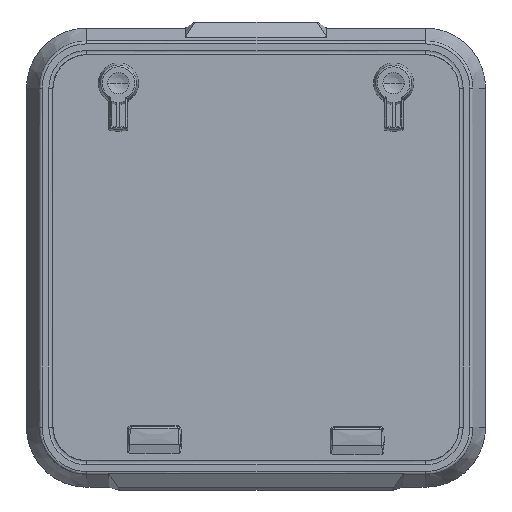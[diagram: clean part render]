
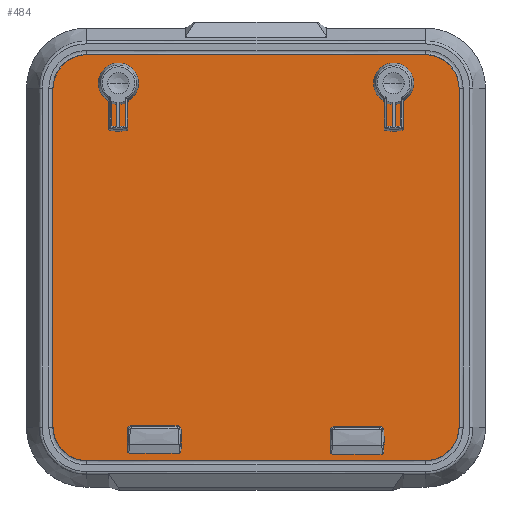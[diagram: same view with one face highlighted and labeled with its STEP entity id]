
A CAD part, front view. The second image highlights one B-rep face of the part: STEP entity #484.
In plain terms, the highlighted planar face has unit normal (0, -1, 0).
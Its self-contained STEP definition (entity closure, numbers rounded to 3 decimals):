
#1=CARTESIAN_POINT('',(81.9,0.,-35.7));
#2=DIRECTION('',(0.,-1.,0.));
#3=DIRECTION('',(1.,0.,0.));
#4=AXIS2_PLACEMENT_3D('',#1,#2,#3);
#6=CARTESIAN_POINT('',(81.9,0.,-35.7));
#7=DIRECTION('',(0.,-1.,0.));
#8=DIRECTION('',(-1.,0.,0.));
#9=AXIS2_PLACEMENT_3D('',#6,#7,#8);
#11=CARTESIAN_POINT('',(97.055,0.,-44.45));
#12=DIRECTION('',(0.,-1.,0.));
#13=DIRECTION('',(1.,0.,0.));
#14=AXIS2_PLACEMENT_3D('',#11,#12,#13);
#16=CARTESIAN_POINT('',(97.055,0.,-44.45));
#17=DIRECTION('',(0.,-1.,0.));
#18=DIRECTION('',(-1.,0.,0.));
#19=AXIS2_PLACEMENT_3D('',#16,#17,#18);
#21=CARTESIAN_POINT('',(426.1,0.,-35.7));
#22=DIRECTION('',(0.,-1.,0.));
#23=DIRECTION('',(1.,0.,0.));
#24=AXIS2_PLACEMENT_3D('',#21,#22,#23);
#26=CARTESIAN_POINT('',(426.1,0.,-35.7));
#27=DIRECTION('',(0.,-1.,0.));
#28=DIRECTION('',(-1.,0.,0.));
#29=AXIS2_PLACEMENT_3D('',#26,#27,#28);
#31=CARTESIAN_POINT('',(410.945,0.,-44.45));
#32=DIRECTION('',(0.,-1.,0.));
#33=DIRECTION('',(1.,0.,0.));
#34=AXIS2_PLACEMENT_3D('',#31,#32,#33);
#36=CARTESIAN_POINT('',(410.945,0.,-44.45));
#37=DIRECTION('',(0.,-1.,0.));
#38=DIRECTION('',(-1.,0.,0.));
#39=AXIS2_PLACEMENT_3D('',#36,#37,#38);
#41=DIRECTION('',(1.,0.,0.));
#42=VECTOR('',#41,422.);
#43=CARTESIAN_POINT('',(43.,0.,0.));
#44=LINE('',#43,#42);
#45=CARTESIAN_POINT('',(465.,0.,-43.));
#46=DIRECTION('',(0.,1.,0.));
#47=DIRECTION('',(0.,0.,1.));
#48=AXIS2_PLACEMENT_3D('',#45,#46,#47);
#50=DIRECTION('',(0.,0.,-1.));
#51=VECTOR('',#50,422.);
#52=CARTESIAN_POINT('',(508.,0.,-43.));
#53=LINE('',#52,#51);
#54=CARTESIAN_POINT('',(465.,0.,-465.));
#55=DIRECTION('',(0.,1.,0.));
#56=DIRECTION('',(1.,0.,0.));
#57=AXIS2_PLACEMENT_3D('',#54,#55,#56);
#59=DIRECTION('',(-1.,0.,0.));
#60=VECTOR('',#59,422.);
#61=CARTESIAN_POINT('',(465.,0.,-508.));
#62=LINE('',#61,#60);
#63=CARTESIAN_POINT('',(43.,0.,-465.));
#64=DIRECTION('',(0.,1.,0.));
#65=DIRECTION('',(0.,0.,-1.));
#66=AXIS2_PLACEMENT_3D('',#63,#64,#65);
#68=DIRECTION('',(0.,0.,1.));
#69=VECTOR('',#68,422.);
#70=CARTESIAN_POINT('',(0.,0.,-465.));
#71=LINE('',#70,#69);
#72=CARTESIAN_POINT('',(43.,0.,-43.));
#73=DIRECTION('',(0.,1.,0.));
#74=DIRECTION('',(-1.,0.,0.));
#75=AXIS2_PLACEMENT_3D('',#72,#73,#74);
#77=CARTESIAN_POINT('',(148.9,0.,-477.));
#78=DIRECTION('',(0.,-1.,0.));
#79=DIRECTION('',(0.,0.,-1.));
#80=AXIS2_PLACEMENT_3D('',#77,#78,#79);
#82=DIRECTION('',(-1.,0.,0.));
#83=VECTOR('',#82,43.);
#84=CARTESIAN_POINT('',(148.9,0.,-471.5));
#85=LINE('',#84,#83);
#86=CARTESIAN_POINT('',(105.9,0.,-477.));
#87=DIRECTION('',(0.,-1.,0.));
#88=DIRECTION('',(0.,0.,1.));
#89=AXIS2_PLACEMENT_3D('',#86,#87,#88);
#91=DIRECTION('',(1.,0.,0.));
#92=VECTOR('',#91,43.);
#93=CARTESIAN_POINT('',(105.9,0.,-482.5));
#94=LINE('',#93,#92);
#95=DIRECTION('',(1.,0.,0.));
#96=VECTOR('',#95,43.);
#97=CARTESIAN_POINT('',(359.1,0.,-482.5));
#98=LINE('',#97,#96);
#99=CARTESIAN_POINT('',(402.1,0.,-477.));
#100=DIRECTION('',(0.,-1.,0.));
#101=DIRECTION('',(0.,0.,-1.));
#102=AXIS2_PLACEMENT_3D('',#99,#100,#101);
#104=DIRECTION('',(-1.,0.,0.));
#105=VECTOR('',#104,43.);
#106=CARTESIAN_POINT('',(402.1,0.,-471.5));
#107=LINE('',#106,#105);
#108=CARTESIAN_POINT('',(359.1,0.,-477.));
#109=DIRECTION('',(0.,-1.,0.));
#110=DIRECTION('',(0.,0.,1.));
#111=AXIS2_PLACEMENT_3D('',#108,#109,#110);
#321=CARTESIAN_POINT('',(43.,0.,0.));
#322=CARTESIAN_POINT('',(465.,0.,0.));
#323=VERTEX_POINT('',#321);
#324=VERTEX_POINT('',#322);
#325=CARTESIAN_POINT('',(508.,0.,-43.));
#326=VERTEX_POINT('',#325);
#327=CARTESIAN_POINT('',(508.,0.,-465.));
#328=VERTEX_POINT('',#327);
#329=CARTESIAN_POINT('',(465.,0.,-508.));
#330=VERTEX_POINT('',#329);
#331=CARTESIAN_POINT('',(43.,0.,-508.));
#332=VERTEX_POINT('',#331);
#333=CARTESIAN_POINT('',(0.,0.,-465.));
#334=VERTEX_POINT('',#333);
#335=CARTESIAN_POINT('',(0.,0.,-43.));
#336=VERTEX_POINT('',#335);
#337=CARTESIAN_POINT('',(148.9,0.,-482.5));
#338=CARTESIAN_POINT('',(148.9,0.,-471.5));
#339=VERTEX_POINT('',#337);
#340=VERTEX_POINT('',#338);
#341=CARTESIAN_POINT('',(105.9,0.,-471.5));
#342=VERTEX_POINT('',#341);
#343=CARTESIAN_POINT('',(105.9,0.,-482.5));
#344=VERTEX_POINT('',#343);
#369=CARTESIAN_POINT('',(89.4,0.,-35.7));
#370=CARTESIAN_POINT('',(74.4,0.,-35.7));
#371=VERTEX_POINT('',#369);
#372=VERTEX_POINT('',#370);
#373=CARTESIAN_POINT('',(100.393,0.,-44.45));
#374=CARTESIAN_POINT('',(93.718,0.,-44.45));
#375=VERTEX_POINT('',#373);
#376=VERTEX_POINT('',#374);
#385=CARTESIAN_POINT('',(433.6,0.,-35.7));
#386=CARTESIAN_POINT('',(418.6,0.,-35.7));
#387=VERTEX_POINT('',#385);
#388=VERTEX_POINT('',#386);
#389=CARTESIAN_POINT('',(414.282,0.,-44.45));
#390=CARTESIAN_POINT('',(407.607,0.,-44.45));
#391=VERTEX_POINT('',#389);
#392=VERTEX_POINT('',#390);
#401=CARTESIAN_POINT('',(359.1,0.,-482.5));
#402=CARTESIAN_POINT('',(402.1,0.,-482.5));
#403=VERTEX_POINT('',#401);
#404=VERTEX_POINT('',#402);
#405=CARTESIAN_POINT('',(402.1,0.,-471.5));
#406=VERTEX_POINT('',#405);
#407=CARTESIAN_POINT('',(359.1,0.,-471.5));
#408=VERTEX_POINT('',#407);
#417=CARTESIAN_POINT('',(0.,0.,0.));
#418=DIRECTION('',(0.,1.,0.));
#419=DIRECTION('',(1.,0.,0.));
#420=AXIS2_PLACEMENT_3D('',#417,#418,#419);
#421=PLANE('',#420);
#423=ORIENTED_EDGE('',*,*,#422,.T.);
#425=ORIENTED_EDGE('',*,*,#424,.T.);
#427=ORIENTED_EDGE('',*,*,#426,.T.);
#429=ORIENTED_EDGE('',*,*,#428,.T.);
#431=ORIENTED_EDGE('',*,*,#430,.T.);
#433=ORIENTED_EDGE('',*,*,#432,.T.);
#435=ORIENTED_EDGE('',*,*,#434,.T.);
#437=ORIENTED_EDGE('',*,*,#436,.T.);
#438=EDGE_LOOP('',(#423,#425,#427,#429,#431,#433,#435,#437));
#439=FACE_OUTER_BOUND('',#438,.F.);
#441=ORIENTED_EDGE('',*,*,#440,.T.);
#443=ORIENTED_EDGE('',*,*,#442,.T.);
#444=EDGE_LOOP('',(#441,#443));
#445=FACE_BOUND('',#444,.F.);
#447=ORIENTED_EDGE('',*,*,#446,.T.);
#449=ORIENTED_EDGE('',*,*,#448,.T.);
#450=EDGE_LOOP('',(#447,#449));
#451=FACE_BOUND('',#450,.F.);
#453=ORIENTED_EDGE('',*,*,#452,.T.);
#455=ORIENTED_EDGE('',*,*,#454,.T.);
#456=EDGE_LOOP('',(#453,#455));
#457=FACE_BOUND('',#456,.F.);
#459=ORIENTED_EDGE('',*,*,#458,.T.);
#461=ORIENTED_EDGE('',*,*,#460,.T.);
#462=EDGE_LOOP('',(#459,#461));
#463=FACE_BOUND('',#462,.F.);
#465=ORIENTED_EDGE('',*,*,#464,.T.);
#467=ORIENTED_EDGE('',*,*,#466,.T.);
#469=ORIENTED_EDGE('',*,*,#468,.T.);
#471=ORIENTED_EDGE('',*,*,#470,.T.);
#472=EDGE_LOOP('',(#465,#467,#469,#471));
#473=FACE_BOUND('',#472,.F.);
#475=ORIENTED_EDGE('',*,*,#474,.T.);
#477=ORIENTED_EDGE('',*,*,#476,.T.);
#479=ORIENTED_EDGE('',*,*,#478,.T.);
#481=ORIENTED_EDGE('',*,*,#480,.T.);
#482=EDGE_LOOP('',(#475,#477,#479,#481));
#483=FACE_BOUND('',#482,.F.);
#484=ADVANCED_FACE('',(#439,#445,#451,#457,#463,#473,#483),#421,.F.);
#5=CIRCLE('',#4,7.5);
#10=CIRCLE('',#9,7.5);
#15=CIRCLE('',#14,3.338);
#20=CIRCLE('',#19,3.338);
#25=CIRCLE('',#24,7.5);
#30=CIRCLE('',#29,7.5);
#35=CIRCLE('',#34,3.338);
#40=CIRCLE('',#39,3.338);
#49=CIRCLE('',#48,43.);
#58=CIRCLE('',#57,43.);
#67=CIRCLE('',#66,43.);
#76=CIRCLE('',#75,43.);
#81=CIRCLE('',#80,5.5);
#90=CIRCLE('',#89,5.5);
#103=CIRCLE('',#102,5.5);
#112=CIRCLE('',#111,5.5);
#422=EDGE_CURVE('',#323,#324,#44,.T.);
#424=EDGE_CURVE('',#324,#326,#49,.T.);
#426=EDGE_CURVE('',#326,#328,#53,.T.);
#428=EDGE_CURVE('',#328,#330,#58,.T.);
#430=EDGE_CURVE('',#330,#332,#62,.T.);
#432=EDGE_CURVE('',#332,#334,#67,.T.);
#434=EDGE_CURVE('',#334,#336,#71,.T.);
#436=EDGE_CURVE('',#336,#323,#76,.T.);
#440=EDGE_CURVE('',#371,#372,#5,.T.);
#442=EDGE_CURVE('',#372,#371,#10,.T.);
#446=EDGE_CURVE('',#375,#376,#15,.T.);
#448=EDGE_CURVE('',#376,#375,#20,.T.);
#452=EDGE_CURVE('',#387,#388,#25,.T.);
#454=EDGE_CURVE('',#388,#387,#30,.T.);
#458=EDGE_CURVE('',#391,#392,#35,.T.);
#460=EDGE_CURVE('',#392,#391,#40,.T.);
#464=EDGE_CURVE('',#339,#340,#81,.T.);
#466=EDGE_CURVE('',#340,#342,#85,.T.);
#468=EDGE_CURVE('',#342,#344,#90,.T.);
#470=EDGE_CURVE('',#344,#339,#94,.T.);
#474=EDGE_CURVE('',#403,#404,#98,.T.);
#476=EDGE_CURVE('',#404,#406,#103,.T.);
#478=EDGE_CURVE('',#406,#408,#107,.T.);
#480=EDGE_CURVE('',#408,#403,#112,.T.);
